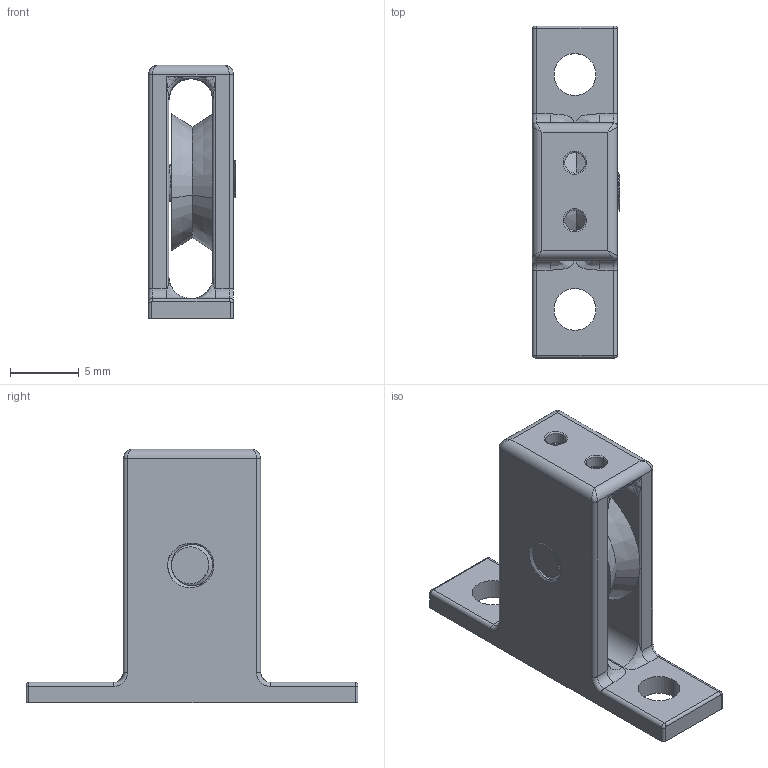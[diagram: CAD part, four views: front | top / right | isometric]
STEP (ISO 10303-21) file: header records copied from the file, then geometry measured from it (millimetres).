
FILE_DESCRIPTION (( 'STEP AP214' ), '1' );
FILE_NAME ('BL-PM-01.STEP', '2022-07-22T17:42:09', ( '' ), ( '' ), 'SwSTEP 2.0', 'SolidWorks 2020', '' );
FILE_SCHEMA (( 'AUTOMOTIVE_DESIGN' ));
Length unit declared in the file: centimetre
Products named in the file (4): NoHeadScrew; BL-PM-01; VPulley; PulleyBracketV3
Assembly tree (3 placements, depth 2):
  BL-PM-01
    PulleyBracketV3
    VPulley
    NoHeadScrew
Bounding box: 6.36 x 24.19 x 18.5 mm (x, y, z)
Volume: 936.2 mm3; surface area: 1560.6 mm2
Topology: 3 solids, 3 shells, 167 faces, 440 edges, 268 vertices
Faces by surface type: cylinder 86, bspline 29, plane 25, torus 23, cone 4
Entity records: 13649 total; most frequent: CARTESIAN_POINT 9867, ORIENTED_EDGE 864, DIRECTION 649, EDGE_CURVE 432, VERTEX_POINT 268, AXIS2_PLACEMENT_3D 252, EDGE_LOOP 180, FACE_OUTER_BOUND 167
